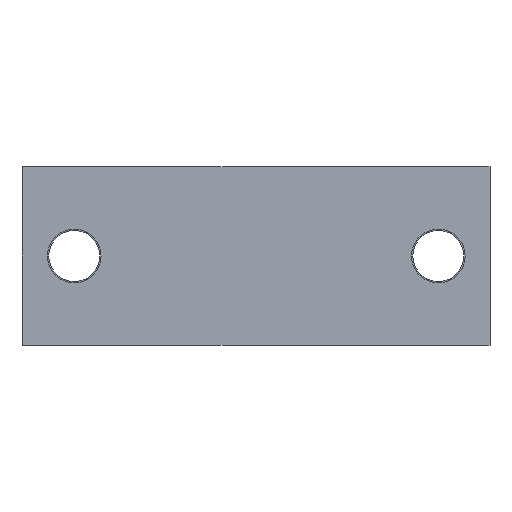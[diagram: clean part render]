
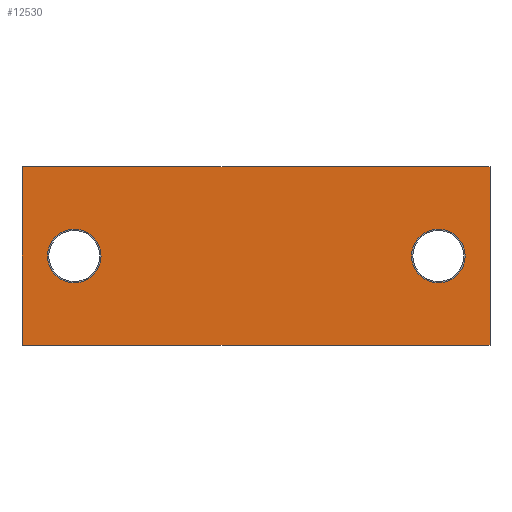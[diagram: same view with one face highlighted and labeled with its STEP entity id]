
A CAD part, front view. The second image highlights one B-rep face of the part: STEP entity #12530.
In plain terms, the highlighted planar face has unit normal (0, -1, 0).
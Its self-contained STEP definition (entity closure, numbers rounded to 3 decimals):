
#910=VECTOR('',#14471,1.);
#1421=VECTOR('',#15259,1.);
#1431=VECTOR('',#15283,1.);
#1432=VECTOR('',#15285,1.);
#2292=LINE('',#17187,#910);
#2803=LINE('',#18977,#1421);
#2813=LINE('',#19001,#1431);
#2814=LINE('',#19003,#1432);
#3538=PLANE('',#13323);
#3806=CIRCLE('',#13106,2.1);
#3842=CIRCLE('',#13316,2.1);
#4290=VERTEX_POINT('',#17186);
#4291=VERTEX_POINT('',#17188);
#4296=VERTEX_POINT('',#17219);
#4725=VERTEX_POINT('',#18976);
#4726=VERTEX_POINT('',#18978);
#4730=VERTEX_POINT('',#18988);
#5742=EDGE_CURVE('',#4291,#4290,#2292,.T.);
#5758=EDGE_CURVE('',#4296,#4296,#3806,.T.);
#6394=EDGE_CURVE('',#4726,#4725,#2803,.T.);
#6399=EDGE_CURVE('',#4730,#4730,#3842,.T.);
#6406=EDGE_CURVE('',#4725,#4291,#2813,.T.);
#6407=EDGE_CURVE('',#4726,#4290,#2814,.T.);
#9479=ORIENTED_EDGE('',*,*,#5758,.T.);
#9480=ORIENTED_EDGE('',*,*,#6399,.T.);
#9481=ORIENTED_EDGE('',*,*,#6406,.T.);
#9482=ORIENTED_EDGE('',*,*,#5742,.T.);
#9483=ORIENTED_EDGE('',*,*,#6407,.F.);
#9484=ORIENTED_EDGE('',*,*,#6394,.T.);
#11095=EDGE_LOOP('',(#9479));
#11096=EDGE_LOOP('',(#9480));
#11097=EDGE_LOOP('',(#9481,#9482,#9483,#9484));
#11835=FACE_BOUND('',#11095,.T.);
#11836=FACE_BOUND('',#11096,.T.);
#11837=FACE_BOUND('',#11097,.T.);
#12530=ADVANCED_FACE('',(#11835,#11836,#11837),#3538,.T.);
#13106=AXIS2_PLACEMENT_3D('',#17218,#14504,#14505);
#13316=AXIS2_PLACEMENT_3D('',#18987,#15267,#15268);
#13323=AXIS2_PLACEMENT_3D('',#19002,#15284,$);
#14471=DIRECTION('',(0.,0.,1.));
#14504=DIRECTION('',(0.,1.,0.));
#14505=DIRECTION('',(2.1,0.,0.));
#15259=DIRECTION('',(0.,0.,-1.));
#15267=DIRECTION('',(0.,1.,0.));
#15268=DIRECTION('',(2.1,0.,0.));
#15283=DIRECTION('',(1.,0.,0.));
#15284=DIRECTION('',(0.,-1.,0.));
#15285=DIRECTION('',(1.,0.,0.));
#17186=CARTESIAN_POINT('',(36.7,0.,7.));
#17187=CARTESIAN_POINT('',(36.7,0.,7.));
#17188=CARTESIAN_POINT('',(36.7,0.,-7.));
#17218=CARTESIAN_POINT('',(32.65,0.,0.));
#17219=CARTESIAN_POINT('',(30.55,0.,0.));
#18976=CARTESIAN_POINT('',(0.,0.,-7.));
#18977=CARTESIAN_POINT('',(0.,0.,7.));
#18978=CARTESIAN_POINT('',(0.,0.,7.));
#18987=CARTESIAN_POINT('',(4.1,0.,0.));
#18988=CARTESIAN_POINT('',(2.,0.,0.));
#19001=CARTESIAN_POINT('',(0.,0.,-7.));
#19002=CARTESIAN_POINT('',(0.,0.,0.));
#19003=CARTESIAN_POINT('',(0.,0.,7.));
